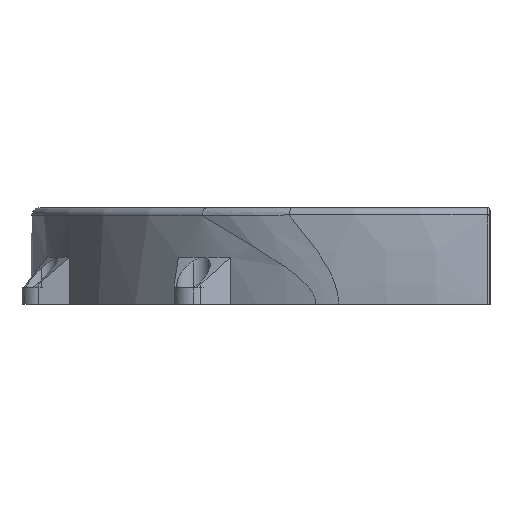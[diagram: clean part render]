
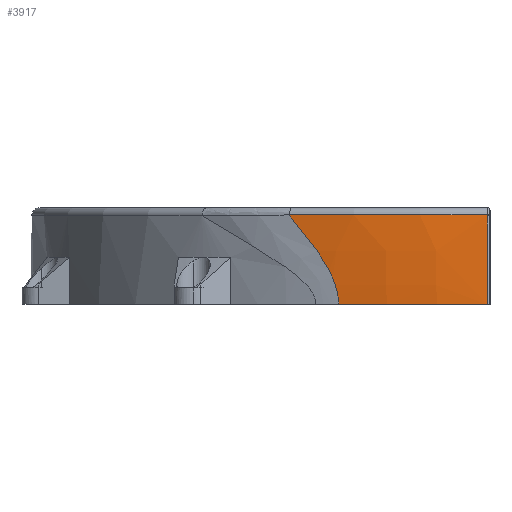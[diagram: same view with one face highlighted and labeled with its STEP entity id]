
A CAD part, left-side view. The second image highlights one B-rep face of the part: STEP entity #3917.
In plain terms, the highlighted toroidal (fillet/blend) face has major radius 50 mm and minor radius 150 mm.
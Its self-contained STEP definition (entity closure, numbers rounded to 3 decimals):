
#63 = CARTESIAN_POINT ( 'NONE',  ( -79.578, -2.497, 10.788 ) ) ;
#200 = CARTESIAN_POINT ( 'NONE',  ( 20.056, -3., 0. ) ) ;
#371 = CARTESIAN_POINT ( 'NONE',  ( -76.136, 24.332, 0.406 ) ) ;
#551 = CARTESIAN_POINT ( 'NONE',  ( -73.208, 31.304, 13.815 ) ) ;
#697 = ORIENTED_EDGE ( 'NONE', *, *, #8651, .T. ) ;
#721 = CARTESIAN_POINT ( 'NONE',  ( -79.87, -2.497, 5.4 ) ) ;
#811 = CARTESIAN_POINT ( 'NONE',  ( -79.942, -2.497, 0. ) ) ;
#843 = EDGE_CURVE ( 'NONE', #9124, #7501, #6380, .T. ) ;
#863 = EDGE_CURVE ( 'NONE', #9124, #7287, #7641, .T. ) ;
#1118 = CARTESIAN_POINT ( 'NONE',  ( -74.498, 28.494, 10.119 ) ) ;
#1170 = CARTESIAN_POINT ( 'NONE',  ( -75.652, 25.65, 5.414 ) ) ;
#1182 = VERTEX_POINT ( 'NONE', #2823 ) ;
#1313 = CARTESIAN_POINT ( 'NONE',  ( -76.094, 24.45, 1.616 ) ) ;
#1478 = CARTESIAN_POINT ( 'NONE',  ( -79.36, -2.497, 13.478 ) ) ;
#1833 = CARTESIAN_POINT ( 'NONE',  ( -75.049, 27.182, 8.168 ) ) ;
#2023 = CARTESIAN_POINT ( 'NONE',  ( -72.202, 33.255, 16.162 ) ) ;
#2339 = AXIS2_PLACEMENT_3D ( 'NONE', #200, #3068, #3015 ) ;
#2823 = CARTESIAN_POINT ( 'NONE',  ( -72.202, 33.255, 16.162 ) ) ;
#3015 = DIRECTION ( 'NONE',  ( -1., 0., 0. ) ) ;
#3068 = DIRECTION ( 'NONE',  ( 0., 0., -1. ) ) ;
#3240 = CARTESIAN_POINT ( 'NONE',  ( -74.69, 28.044, 9.478 ) ) ;
#3382 = CARTESIAN_POINT ( 'NONE',  ( -74.092, 29.411, 11.376 ) ) ;
#3827 = CIRCLE ( 'NONE', #8543, 99.127 ) ;
#3917 = ADVANCED_FACE ( 'NONE', ( #8206 ), #8060, .T. ) ;
#3920 = ORIENTED_EDGE ( 'NONE', *, *, #8640, .T. ) ;
#4008 = CARTESIAN_POINT ( 'NONE',  ( -75.216, 26.77, 7.499 ) ) ;
#4013 = ORIENTED_EDGE ( 'NONE', *, *, #843, .T. ) ;
#4135 = ORIENTED_EDGE ( 'NONE', *, *, #863, .F. ) ;
#4451 = CARTESIAN_POINT ( 'NONE',  ( -79.069, -2.497, 16.162 ) ) ;
#4812 = B_SPLINE_CURVE_WITH_KNOTS ( 'NONE', 3,
 ( #2023, #7808, #551, #5602, #3382, #1118, #3240, #1833, #4008, #6275, #1170, #6910, #9187, #8523, #1313, #6856, #371, #6137 ),
 .UNSPECIFIED., .F., .F.,
 ( 4, 2, 2, 2, 2, 2, 2, 2, 4 ),
 ( 0.002, 0.007, 0.009, 0.011, 0.014, 0.016, 0.019, 0.02, 0.021 ),
 .UNSPECIFIED. ) ;
#5153 = CARTESIAN_POINT ( 'NONE',  ( -79.942, -2.497, 2.7 ) ) ;
#5346 = DIRECTION ( 'NONE',  ( -1., 0., 0. ) ) ;
#5602 = CARTESIAN_POINT ( 'NONE',  ( -73.878, 29.88, 11.992 ) ) ;
#6137 = CARTESIAN_POINT ( 'NONE',  ( -76.136, 24.332, 0. ) ) ;
#6275 = CARTESIAN_POINT ( 'NONE',  ( -75.517, 26.004, 6.122 ) ) ;
#6380 = B_SPLINE_CURVE_WITH_KNOTS ( 'NONE', 3,
 ( #811, #5153, #721, #63, #1478, #4451 ),
 .UNSPECIFIED., .F., .F.,
 ( 4, 2, 4 ),
 ( 0., 0.008, 0.016 ),
 .UNSPECIFIED. ) ;
#6466 = CARTESIAN_POINT ( 'NONE',  ( -79.069, -2.497, 16.162 ) ) ;
#6781 = CARTESIAN_POINT ( 'NONE',  ( 20.056, -3., 0. ) ) ;
#6856 = CARTESIAN_POINT ( 'NONE',  ( -76.127, 24.357, 0.813 ) ) ;
#6910 = CARTESIAN_POINT ( 'NONE',  ( -75.882, 25.036, 3.934 ) ) ;
#6949 = DIRECTION ( 'NONE',  ( 0., 0., -1. ) ) ;
#7287 = VERTEX_POINT ( 'NONE', #8902 ) ;
#7501 = VERTEX_POINT ( 'NONE', #6466 ) ;
#7595 = AXIS2_PLACEMENT_3D ( 'NONE', #6781, #9019, #5346 ) ;
#7641 = CIRCLE ( 'NONE', #2339, 100. ) ;
#7808 = CARTESIAN_POINT ( 'NONE',  ( -72.723, 32.277, 14.998 ) ) ;
#7932 = EDGE_LOOP ( 'NONE', ( #4135, #4013, #697, #3920 ) ) ;
#8060 = TOROIDAL_SURFACE ( 'NONE', #7595, -50., 150. ) ;
#8206 = FACE_OUTER_BOUND ( 'NONE', #7932, .T. ) ;
#8249 = CARTESIAN_POINT ( 'NONE',  ( -79.942, -2.497, 0. ) ) ;
#8523 = CARTESIAN_POINT ( 'NONE',  ( -76.069, 24.519, 2.01 ) ) ;
#8543 = AXIS2_PLACEMENT_3D ( 'NONE', #9043, #6949, #9138 ) ;
#8640 = EDGE_CURVE ( 'NONE', #1182, #7287, #4812, .T. ) ;
#8651 = EDGE_CURVE ( 'NONE', #7501, #1182, #3827, .T. ) ;
#8902 = CARTESIAN_POINT ( 'NONE',  ( -76.136, 24.332, 0. ) ) ;
#9019 = DIRECTION ( 'NONE',  ( 0., 0., -1. ) ) ;
#9043 = CARTESIAN_POINT ( 'NONE',  ( 20.056, -3., 16.162 ) ) ;
#9124 = VERTEX_POINT ( 'NONE', #8249 ) ;
#9138 = DIRECTION ( 'NONE',  ( -1., 0., 0. ) ) ;
#9187 = CARTESIAN_POINT ( 'NONE',  ( -75.974, 24.783, 3.178 ) ) ;
